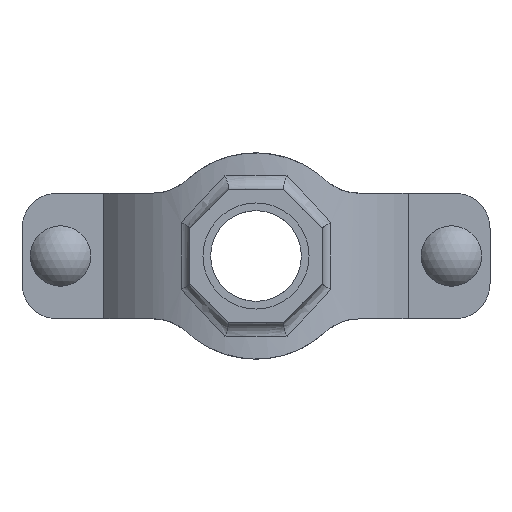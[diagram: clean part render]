
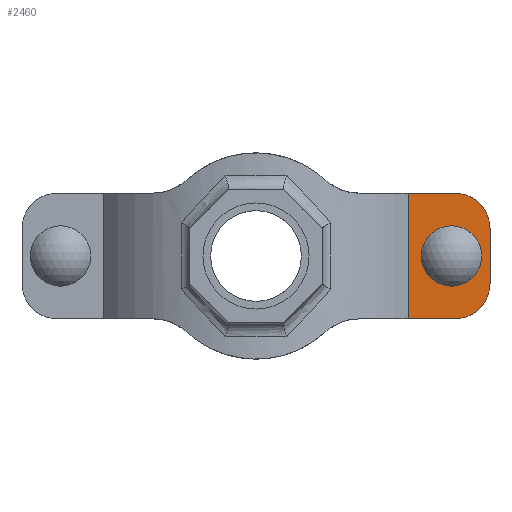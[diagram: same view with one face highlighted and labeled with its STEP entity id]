
A CAD part, front view. The second image highlights one B-rep face of the part: STEP entity #2460.
In plain terms, the highlighted planar face has unit normal (0, -1, 0) as drawn and (0, 1, 0) by its records, which use the part's own axes.
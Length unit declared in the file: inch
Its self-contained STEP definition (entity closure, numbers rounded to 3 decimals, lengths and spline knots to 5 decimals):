
#179=FACE_BOUND('',#445,.T.);
#296=FACE_OUTER_BOUND('',#444,.T.);
#444=EDGE_LOOP('',(#2079,#2080,#2081,#2082,#2083,#2084));
#445=EDGE_LOOP('',(#2085,#2086,#2087,#2088));
#585=LINE('',#4555,#767);
#596=LINE('',#4633,#778);
#600=LINE('',#4644,#782);
#628=LINE('',#4872,#810);
#629=LINE('',#4874,#811);
#630=LINE('',#4878,#812);
#767=VECTOR('',#3203,0.3937);
#778=VECTOR('',#3240,0.3937);
#782=VECTOR('',#3252,0.3937);
#810=VECTOR('',#3336,0.3937);
#811=VECTOR('',#3337,0.3937);
#812=VECTOR('',#3340,0.3937);
#886=CIRCLE('',#2704,0.343);
#888=CIRCLE('',#2708,0.343);
#901=CIRCLE('',#2739,0.63);
#902=CIRCLE('',#2740,0.63);
#1077=VERTEX_POINT('',#4552);
#1078=VERTEX_POINT('',#4554);
#1090=VERTEX_POINT('',#4623);
#1091=VERTEX_POINT('',#4624);
#1094=VERTEX_POINT('',#4632);
#1096=VERTEX_POINT('',#4638);
#1127=VERTEX_POINT('',#4871);
#1128=VERTEX_POINT('',#4873);
#1129=VERTEX_POINT('',#4875);
#1130=VERTEX_POINT('',#4877);
#1381=EDGE_CURVE('',#1078,#1077,#585,.T.);
#1398=EDGE_CURVE('',#1090,#1091,#886,.T.);
#1402=EDGE_CURVE('',#1091,#1094,#596,.T.);
#1405=EDGE_CURVE('',#1094,#1096,#888,.T.);
#1408=EDGE_CURVE('',#1096,#1090,#600,.T.);
#1454=EDGE_CURVE('',#1078,#1127,#628,.T.);
#1455=EDGE_CURVE('',#1128,#1077,#629,.T.);
#1456=EDGE_CURVE('',#1129,#1128,#901,.T.);
#1457=EDGE_CURVE('',#1130,#1129,#630,.T.);
#1458=EDGE_CURVE('',#1127,#1130,#902,.T.);
#2079=ORIENTED_EDGE('',*,*,#1454,.F.);
#2080=ORIENTED_EDGE('',*,*,#1381,.T.);
#2081=ORIENTED_EDGE('',*,*,#1455,.F.);
#2082=ORIENTED_EDGE('',*,*,#1456,.F.);
#2083=ORIENTED_EDGE('',*,*,#1457,.F.);
#2084=ORIENTED_EDGE('',*,*,#1458,.F.);
#2085=ORIENTED_EDGE('',*,*,#1405,.T.);
#2086=ORIENTED_EDGE('',*,*,#1408,.T.);
#2087=ORIENTED_EDGE('',*,*,#1398,.T.);
#2088=ORIENTED_EDGE('',*,*,#1402,.T.);
#2209=PLANE('',#2738);
#2460=ADVANCED_FACE('',(#296,#179),#2209,.F.);
#2704=AXIS2_PLACEMENT_3D('',#4625,#3232,#3233);
#2708=AXIS2_PLACEMENT_3D('',#4639,#3245,#3246);
#2738=AXIS2_PLACEMENT_3D('',#4870,#3334,#3335);
#2739=AXIS2_PLACEMENT_3D('',#4876,#3338,#3339);
#2740=AXIS2_PLACEMENT_3D('',#4879,#3341,#3342);
#3203=DIRECTION('',(0.,0.,-1.));
#3232=DIRECTION('center_axis',(0.,-1.,0.));
#3233=DIRECTION('ref_axis',(1.,0.,0.));
#3240=DIRECTION('',(0.,0.,1.));
#3245=DIRECTION('center_axis',(0.,-1.,0.));
#3246=DIRECTION('ref_axis',(-1.,0.,0.));
#3252=DIRECTION('',(0.,0.,-1.));
#3334=DIRECTION('center_axis',(0.,-1.,0.));
#3335=DIRECTION('ref_axis',(1.,0.,0.));
#3336=DIRECTION('',(-1.,0.,0.));
#3337=DIRECTION('',(1.,0.,0.));
#3338=DIRECTION('center_axis',(0.,-1.,0.));
#3339=DIRECTION('ref_axis',(0.,0.,-1.));
#3340=DIRECTION('',(0.,0.,-1.));
#3341=DIRECTION('center_axis',(0.,-1.,0.));
#3342=DIRECTION('ref_axis',(-1.,0.,0.));
#4552=CARTESIAN_POINT('',(-2.72478,2.,-1.125));
#4554=CARTESIAN_POINT('',(-2.72478,2.,1.125));
#4555=CARTESIAN_POINT('',(-2.72478,2.,0.));
#4623=CARTESIAN_POINT('',(-3.843,2.,-0.0945));
#4624=CARTESIAN_POINT('',(-3.157,2.,-0.0945));
#4625=CARTESIAN_POINT('Origin',(-3.5,2.,-0.0945));
#4632=CARTESIAN_POINT('',(-3.157,2.,0.0945));
#4633=CARTESIAN_POINT('',(-3.157,2.,0.04725));
#4638=CARTESIAN_POINT('',(-3.843,2.,0.0945));
#4639=CARTESIAN_POINT('Origin',(-3.5,2.,0.0945));
#4644=CARTESIAN_POINT('',(-3.843,2.,-0.04725));
#4870=CARTESIAN_POINT('Origin',(-4.19,2.,0.));
#4871=CARTESIAN_POINT('',(-3.56,2.,1.125));
#4872=CARTESIAN_POINT('',(-3.875,2.,1.125));
#4873=CARTESIAN_POINT('',(-3.56,2.,-1.125));
#4874=CARTESIAN_POINT('',(-3.01771,2.,-1.125));
#4875=CARTESIAN_POINT('',(-4.19,2.,-0.495));
#4876=CARTESIAN_POINT('Origin',(-3.56,2.,-0.495));
#4877=CARTESIAN_POINT('',(-4.19,2.,0.495));
#4878=CARTESIAN_POINT('',(-4.19,2.,-0.2475));
#4879=CARTESIAN_POINT('Origin',(-3.56,2.,0.495));
